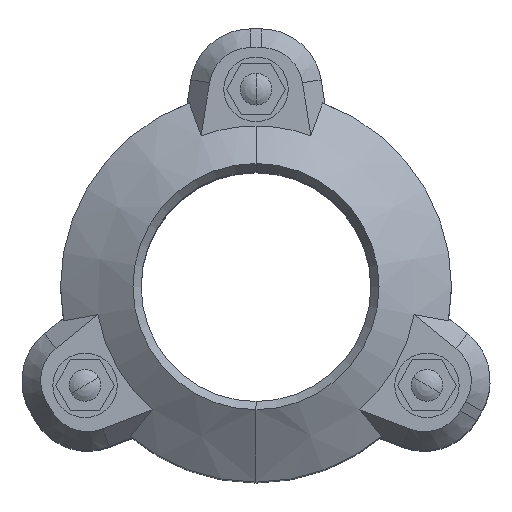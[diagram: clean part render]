
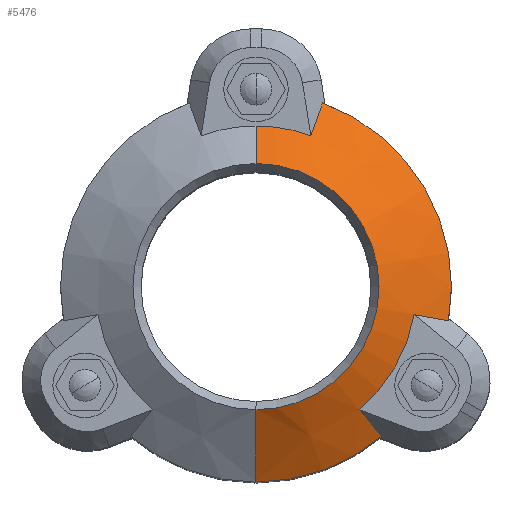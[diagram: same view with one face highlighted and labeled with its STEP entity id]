
A CAD part, top view. The second image highlights one B-rep face of the part: STEP entity #5476.
In plain terms, the highlighted conical face has half-angle 58 degrees and reference radius 59.284 mm.
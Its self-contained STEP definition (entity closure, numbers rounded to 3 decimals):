
#4269=CARTESIAN_POINT('',(71.633,-12.72,7.167));
#4296=CARTESIAN_POINT('',(46.833,-55.676,7.167));
#4350=CARTESIAN_POINT('',(38.461,-45.794,15.26));
#4351=CARTESIAN_POINT('',(39.379,-46.878,14.372));
#4352=CARTESIAN_POINT('',(41.223,-49.055,12.589));
#4353=CARTESIAN_POINT('',(44.015,-52.349,9.891));
#4354=CARTESIAN_POINT('',(45.891,-54.564,8.077));
#4355=CARTESIAN_POINT('',(46.833,-55.676,7.167));
#4357=CARTESIAN_POINT('',(0.,0.,7.167));
#4358=DIRECTION('',(0.,0.,-1.));
#4359=DIRECTION('',(0.644,-0.765,0.));
#4360=AXIS2_PLACEMENT_3D('',#4357,#4358,#4359);
#4362=DIRECTION('',(0.,0.848,0.53));
#4363=VECTOR('',#4362,31.766);
#4364=CARTESIAN_POINT('',(0.,-72.754,
7.167));
#4365=LINE('',#4364,#4363);
#4366=DIRECTION('',(0.,-0.848,0.53));
#4367=VECTOR('',#4366,16.493);
#4368=CARTESIAN_POINT('',(0.,59.802,15.26));
#4369=LINE('',#4368,#4367);
#4370=CARTESIAN_POINT('',(0.,0.,15.26));
#4371=DIRECTION('',(0.,0.,1.));
#4372=DIRECTION('',(0.342,0.94,0.));
#4373=AXIS2_PLACEMENT_3D('',#4370,#4371,#4372);
#4375=CARTESIAN_POINT('',(0.,0.,7.167));
#4376=DIRECTION('',(0.,0.,-1.));
#4377=DIRECTION('',(0.341,0.94,0.));
#4378=AXIS2_PLACEMENT_3D('',#4375,#4376,#4377);
#4380=CARTESIAN_POINT('',(71.633,-12.72,7.167));
#4381=CARTESIAN_POINT('',(70.2,-12.461,8.077));
#4382=CARTESIAN_POINT('',(67.344,-11.943,9.89));
#4383=CARTESIAN_POINT('',(63.095,-11.173,12.589));
#4384=CARTESIAN_POINT('',(60.287,-10.664,14.372));
#4385=CARTESIAN_POINT('',(58.889,-10.411,15.26));
#4387=CARTESIAN_POINT('',(0.,0.,15.26));
#4388=DIRECTION('',(0.,0.,1.));
#4389=DIRECTION('',(0.643,-0.766,0.));
#4390=AXIS2_PLACEMENT_3D('',#4387,#4388,#4389);
#4907=CARTESIAN_POINT('',(24.8,68.396,7.167));
#4909=CARTESIAN_POINT('',(24.8,68.396,7.167));
#4910=CARTESIAN_POINT('',(24.268,66.911,8.153));
#4911=CARTESIAN_POINT('',(23.234,64.028,10.067));
#4912=CARTESIAN_POINT('',(21.78,59.974,12.758));
#4913=CARTESIAN_POINT('',(20.869,57.433,14.444));
#4914=CARTESIAN_POINT('',(20.428,56.205,15.26));
#5019=CARTESIAN_POINT('',(0.,0.,24.));
#5020=DIRECTION('',(0.,0.,-1.));
#5021=DIRECTION('',(0.,1.,0.));
#5022=AXIS2_PLACEMENT_3D('',#5019,#5020,#5021);
#5086=CARTESIAN_POINT('',(0.,45.815,24.));
#5087=VERTEX_POINT('',#5086);
#5092=CARTESIAN_POINT('',(0.,-72.754,
7.167));
#5093=CARTESIAN_POINT('',(0.,-45.815,24.));
#5094=VERTEX_POINT('',#5092);
#5095=VERTEX_POINT('',#5093);
#5108=CARTESIAN_POINT('',(0.,59.802,15.26));
#5109=VERTEX_POINT('',#5108);
#5130=CARTESIAN_POINT('',(20.428,56.205,15.26));
#5131=VERTEX_POINT('',#5130);
#5134=VERTEX_POINT('',#4907);
#5237=CARTESIAN_POINT('',(58.889,-10.411,15.26));
#5239=VERTEX_POINT('',#5237);
#5252=CARTESIAN_POINT('',(38.461,-45.794,15.26));
#5253=VERTEX_POINT('',#5252);
#5300=VERTEX_POINT('',#4296);
#5303=VERTEX_POINT('',#4269);
#5452=CARTESIAN_POINT('',(0.,0.,15.583));
#5453=DIRECTION('',(0.,0.,-1.));
#5454=DIRECTION('',(0.,-1.,0.));
#5455=AXIS2_PLACEMENT_3D('',#5452,#5453,#5454);
#5456=CONICAL_SURFACE('',#5455,59.284,58.);
#5458=ORIENTED_EDGE('',*,*,#5457,.T.);
#5459=ORIENTED_EDGE('',*,*,#5412,.T.);
#5461=ORIENTED_EDGE('',*,*,#5460,.T.);
#5463=ORIENTED_EDGE('',*,*,#5462,.F.);
#5465=ORIENTED_EDGE('',*,*,#5464,.F.);
#5467=ORIENTED_EDGE('',*,*,#5466,.F.);
#5469=ORIENTED_EDGE('',*,*,#5468,.F.);
#5470=ORIENTED_EDGE('',*,*,#5384,.T.);
#5471=ORIENTED_EDGE('',*,*,#5440,.T.);
#5473=ORIENTED_EDGE('',*,*,#5472,.F.);
#5474=EDGE_LOOP('',(#5458,#5459,#5461,#5463,#5465,#5467,#5469,#5470,#5471,
#5473));
#5475=FACE_OUTER_BOUND('',#5474,.F.);
#5476=ADVANCED_FACE('',(#5475),#5456,.T.);
#4356=B_SPLINE_CURVE_WITH_KNOTS('',3,(#4350,#4351,#4352,#4353,#4354,#4355),
.UNSPECIFIED.,.F.,.F.,(4,1,1,4),(0.,0.333,0.667,1.),
.UNSPECIFIED.);
#4361=CIRCLE('',#4360,72.754);
#4374=CIRCLE('',#4373,59.802);
#4379=CIRCLE('',#4378,72.754);
#4386=B_SPLINE_CURVE_WITH_KNOTS('',3,(#4380,#4381,#4382,#4383,#4384,#4385),
.UNSPECIFIED.,.F.,.F.,(4,1,1,4),(0.,0.333,0.667,1.),
.UNSPECIFIED.);
#4391=CIRCLE('',#4390,59.802);
#4915=B_SPLINE_CURVE_WITH_KNOTS('',3,(#4909,#4910,#4911,#4912,#4913,#4914),
.UNSPECIFIED.,.F.,.F.,(4,1,1,4),(0.,0.333,0.667,1.),
.UNSPECIFIED.);
#5023=CIRCLE('',#5022,45.815);
#5384=EDGE_CURVE('',#5134,#5303,#4379,.T.);
#5412=EDGE_CURVE('',#5300,#5094,#4361,.T.);
#5440=EDGE_CURVE('',#5303,#5239,#4386,.T.);
#5457=EDGE_CURVE('',#5253,#5300,#4356,.T.);
#5460=EDGE_CURVE('',#5094,#5095,#4365,.T.);
#5462=EDGE_CURVE('',#5087,#5095,#5023,.T.);
#5464=EDGE_CURVE('',#5109,#5087,#4369,.T.);
#5466=EDGE_CURVE('',#5131,#5109,#4374,.T.);
#5468=EDGE_CURVE('',#5134,#5131,#4915,.T.);
#5472=EDGE_CURVE('',#5253,#5239,#4391,.T.);
